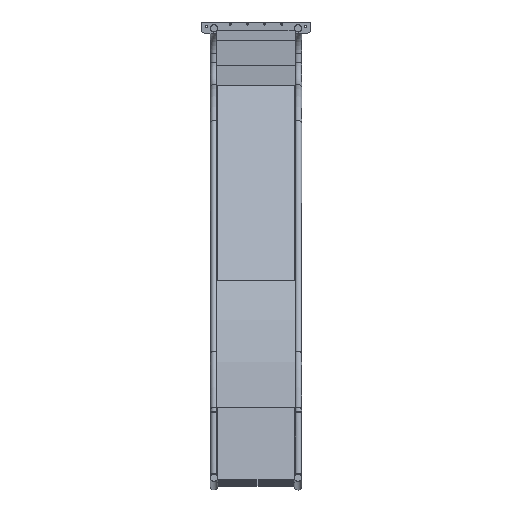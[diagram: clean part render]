
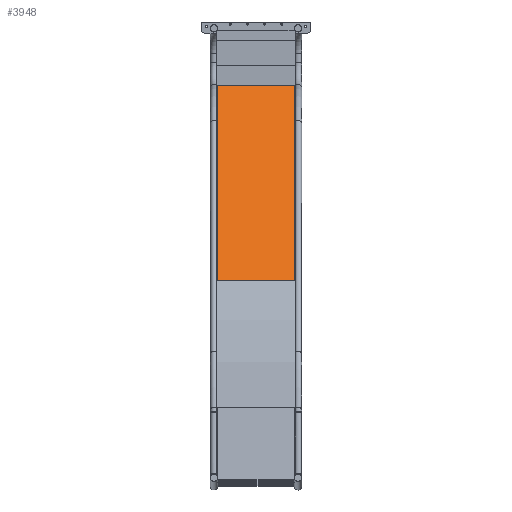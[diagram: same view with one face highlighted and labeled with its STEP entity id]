
A CAD part, left-side view. The second image highlights one B-rep face of the part: STEP entity #3948.
In plain terms, the highlighted planar face has unit normal (-0.788, 0, 0.616) as drawn and (0, 0, 1) by its records, which use the part's own axes.
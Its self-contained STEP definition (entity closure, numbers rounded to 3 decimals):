
#590=FACE_OUTER_BOUND('',#843,.T.);
#843=EDGE_LOOP('',(#3437,#3438,#3439,#3440,#3441,#3442,#3443,#3444));
#1174=LINE('',#7285,#1544);
#1191=LINE('',#7326,#1561);
#1193=LINE('',#7330,#1563);
#1208=LINE('',#7460,#1578);
#1228=LINE('',#7508,#1598);
#1229=LINE('',#7510,#1599);
#1231=LINE('',#7514,#1601);
#1233=LINE('',#7534,#1603);
#1544=VECTOR('',#5420,10.);
#1561=VECTOR('',#5461,10.);
#1563=VECTOR('',#5465,10.);
#1578=VECTOR('',#5492,10.);
#1598=VECTOR('',#5544,10.);
#1599=VECTOR('',#5547,10.);
#1601=VECTOR('',#5551,10.);
#1603=VECTOR('',#5559,10.);
#1854=VERTEX_POINT('',#7258);
#1861=VERTEX_POINT('',#7272);
#1873=VERTEX_POINT('',#7304);
#1877=VERTEX_POINT('',#7319);
#1878=VERTEX_POINT('',#7329);
#1884=VERTEX_POINT('',#7345);
#1902=VERTEX_POINT('',#7506);
#1903=VERTEX_POINT('',#7512);
#2349=EDGE_CURVE('',#1861,#1854,#1174,.T.);
#2370=EDGE_CURVE('',#1873,#1877,#1191,.T.);
#2372=EDGE_CURVE('',#1873,#1878,#1193,.T.);
#2391=EDGE_CURVE('',#1861,#1884,#1208,.T.);
#2415=EDGE_CURVE('',#1902,#1877,#1228,.T.);
#2416=EDGE_CURVE('',#1878,#1884,#1229,.T.);
#2418=EDGE_CURVE('',#1903,#1902,#1231,.T.);
#2423=EDGE_CURVE('',#1903,#1854,#1233,.T.);
#3437=ORIENTED_EDGE('',*,*,#2370,.T.);
#3438=ORIENTED_EDGE('',*,*,#2415,.F.);
#3439=ORIENTED_EDGE('',*,*,#2418,.F.);
#3440=ORIENTED_EDGE('',*,*,#2423,.T.);
#3441=ORIENTED_EDGE('',*,*,#2349,.F.);
#3442=ORIENTED_EDGE('',*,*,#2391,.T.);
#3443=ORIENTED_EDGE('',*,*,#2416,.F.);
#3444=ORIENTED_EDGE('',*,*,#2372,.F.);
#3740=PLANE('',#4493);
#3948=ADVANCED_FACE('',(#590),#3740,.F.);
#4493=AXIS2_PLACEMENT_3D('',#7627,#5569,#5570);
#5420=DIRECTION('',(0.,1.,0.));
#5461=DIRECTION('',(0.,1.,0.));
#5465=DIRECTION('',(-1.,0.,0.));
#5492=DIRECTION('',(1.,0.,0.));
#5544=DIRECTION('',(1.,0.,0.));
#5547=DIRECTION('',(0.,-1.,0.));
#5551=DIRECTION('',(0.,-1.,0.));
#5559=DIRECTION('',(-1.,0.,0.));
#5569=DIRECTION('center_axis',(0.,0.,-1.));
#5570=DIRECTION('ref_axis',(0.,1.,0.));
#7258=CARTESIAN_POINT('',(-1447.964,427.476,-540.524));
#7272=CARTESIAN_POINT('',(-1447.964,4.,-540.524));
#7285=CARTESIAN_POINT('',(-1447.964,-146.262,-540.524));
#7304=CARTESIAN_POINT('',(-97.342,5.765,-540.524));
#7319=CARTESIAN_POINT('',(-97.342,425.765,-540.524));
#7326=CARTESIAN_POINT('',(-97.342,320.765,-540.524));
#7329=CARTESIAN_POINT('',(-98.919,5.765,-540.524));
#7330=CARTESIAN_POINT('',(-97.009,5.765,-540.524));
#7345=CARTESIAN_POINT('',(-98.919,4.,-540.524));
#7460=CARTESIAN_POINT('',(-315.82,4.,-540.524));
#7506=CARTESIAN_POINT('',(-98.919,425.765,-540.524));
#7508=CARTESIAN_POINT('',(-98.919,425.765,-540.524));
#7510=CARTESIAN_POINT('',(-98.919,5.765,-540.524));
#7512=CARTESIAN_POINT('',(-98.919,427.476,-540.524));
#7514=CARTESIAN_POINT('',(-98.919,430.289,-540.524));
#7534=CARTESIAN_POINT('',(-152.797,427.476,-540.524));
#7627=CARTESIAN_POINT('Origin',(-206.675,215.765,-540.524));
